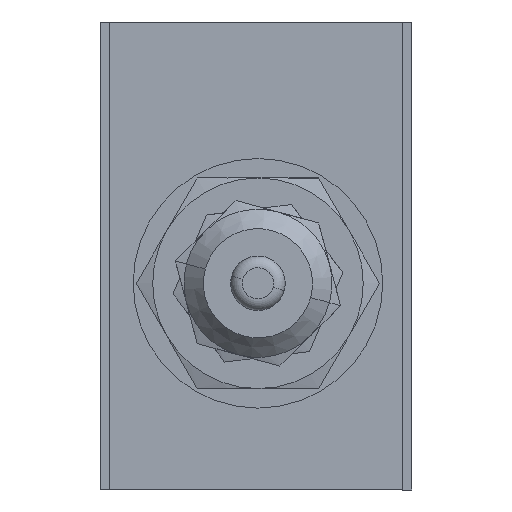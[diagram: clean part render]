
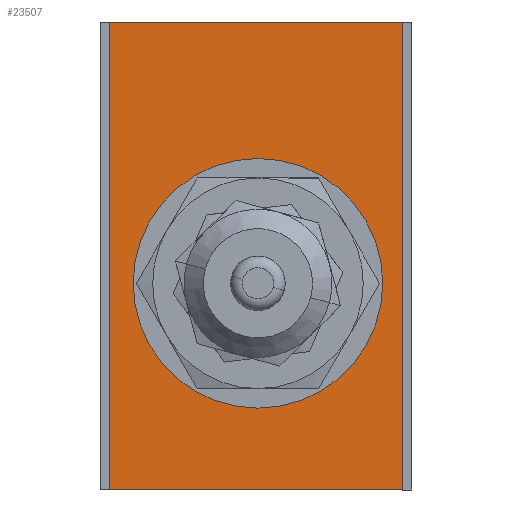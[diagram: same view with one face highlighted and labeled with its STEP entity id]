
A CAD part, left-side view. The second image highlights one B-rep face of the part: STEP entity #23507.
In plain terms, the highlighted planar face has unit normal (-1, 0, 0).
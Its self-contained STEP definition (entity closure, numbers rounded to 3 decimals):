
#97 = ORIENTED_EDGE ( 'NONE', *, *, #6432, .F. ) ;
#738 = LINE ( 'NONE', #7573, #12829 ) ;
#1194 = DIRECTION ( 'NONE',  ( -1., 0., 0. ) ) ;
#2398 = CIRCLE ( 'NONE', #11994, 16. ) ;
#2429 = FACE_BOUND ( 'NONE', #19457, .T. ) ;
#3385 = DIRECTION ( 'NONE',  ( 0., 0., 1. ) ) ;
#3834 = LINE ( 'NONE', #17879, #22465 ) ;
#3949 = VERTEX_POINT ( 'NONE', #12359 ) ;
#4635 = CARTESIAN_POINT ( 'NONE',  ( 0., 18.75, 30. ) ) ;
#5017 = DIRECTION ( 'NONE',  ( 0., 1., 0. ) ) ;
#5117 = CARTESIAN_POINT ( 'NONE',  ( 0., -19.457, -30. ) ) ;
#6158 = CARTESIAN_POINT ( 'NONE',  ( 0., 18.75, -30. ) ) ;
#6432 = EDGE_CURVE ( 'NONE', #25348, #30043, #3834, .T. ) ;
#6641 = EDGE_LOOP ( 'NONE', ( #97, #9136, #25554, #28182 ) ) ;
#7185 = VERTEX_POINT ( 'NONE', #31369 ) ;
#7573 = CARTESIAN_POINT ( 'NONE',  ( 0., -18.75, -30.707 ) ) ;
#7720 = LINE ( 'NONE', #5117, #19916 ) ;
#8102 = FACE_OUTER_BOUND ( 'NONE', #6641, .T. ) ;
#8422 = EDGE_CURVE ( 'NONE', #20875, #25348, #7720, .T. ) ;
#8883 = DIRECTION ( 'NONE',  ( 1., 0., 0. ) ) ;
#9136 = ORIENTED_EDGE ( 'NONE', *, *, #8422, .F. ) ;
#9369 = AXIS2_PLACEMENT_3D ( 'NONE', #23500, #8883, #25937 ) ;
#11994 = AXIS2_PLACEMENT_3D ( 'NONE', #15675, #1194, #18114 ) ;
#12359 = CARTESIAN_POINT ( 'NONE',  ( 0., -0.25, 12.5 ) ) ;
#12482 = CIRCLE ( 'NONE', #20771, 16. ) ;
#12535 = DIRECTION ( 'NONE',  ( -1., 0., 0. ) ) ;
#12829 = VECTOR ( 'NONE', #22284, 1000. ) ;
#13360 = CARTESIAN_POINT ( 'NONE',  ( 0., -19.457, 30. ) ) ;
#13662 = PLANE ( 'NONE',  #9369 ) ;
#14396 = ORIENTED_EDGE ( 'NONE', *, *, #22705, .F. ) ;
#15675 = CARTESIAN_POINT ( 'NONE',  ( 0., -0.25, -3.5 ) ) ;
#16816 = VERTEX_POINT ( 'NONE', #27472 ) ;
#17879 = CARTESIAN_POINT ( 'NONE',  ( 0., 18.75, -30.707 ) ) ;
#18114 = DIRECTION ( 'NONE',  ( 0., 0., -1. ) ) ;
#18499 = LINE ( 'NONE', #13360, #24221 ) ;
#18517 = EDGE_CURVE ( 'NONE', #3949, #16816, #2398, .T. ) ;
#19457 = EDGE_LOOP ( 'NONE', ( #14396, #30102 ) ) ;
#19916 = VECTOR ( 'NONE', #5017, 1000. ) ;
#20771 = AXIS2_PLACEMENT_3D ( 'NONE', #27132, #12535, #29613 ) ;
#20875 = VERTEX_POINT ( 'NONE', #31489 ) ;
#22284 = DIRECTION ( 'NONE',  ( 0., 0., 1. ) ) ;
#22465 = VECTOR ( 'NONE', #3385, 1000. ) ;
#22705 = EDGE_CURVE ( 'NONE', #16816, #3949, #12482, .T. ) ;
#23427 = EDGE_CURVE ( 'NONE', #7185, #30043, #18499, .T. ) ;
#23500 = CARTESIAN_POINT ( 'NONE',  ( 0., -18.75, -30. ) ) ;
#23507 = ADVANCED_FACE ( 'NONE', ( #8102, #2429 ), #13662, .F. ) ;
#24221 = VECTOR ( 'NONE', #27956, 1000. ) ;
#25348 = VERTEX_POINT ( 'NONE', #6158 ) ;
#25554 = ORIENTED_EDGE ( 'NONE', *, *, #28751, .T. ) ;
#25937 = DIRECTION ( 'NONE',  ( 0., 0., 1. ) ) ;
#27132 = CARTESIAN_POINT ( 'NONE',  ( 0., -0.25, -3.5 ) ) ;
#27472 = CARTESIAN_POINT ( 'NONE',  ( 0., -0.25, -19.5 ) ) ;
#27956 = DIRECTION ( 'NONE',  ( 0., 1., 0. ) ) ;
#28182 = ORIENTED_EDGE ( 'NONE', *, *, #23427, .T. ) ;
#28751 = EDGE_CURVE ( 'NONE', #20875, #7185, #738, .T. ) ;
#29613 = DIRECTION ( 'NONE',  ( 0., 0., -1. ) ) ;
#30043 = VERTEX_POINT ( 'NONE', #4635 ) ;
#30102 = ORIENTED_EDGE ( 'NONE', *, *, #18517, .F. ) ;
#31369 = CARTESIAN_POINT ( 'NONE',  ( 0., -18.75, 30. ) ) ;
#31489 = CARTESIAN_POINT ( 'NONE',  ( 0., -18.75, -30. ) ) ;
